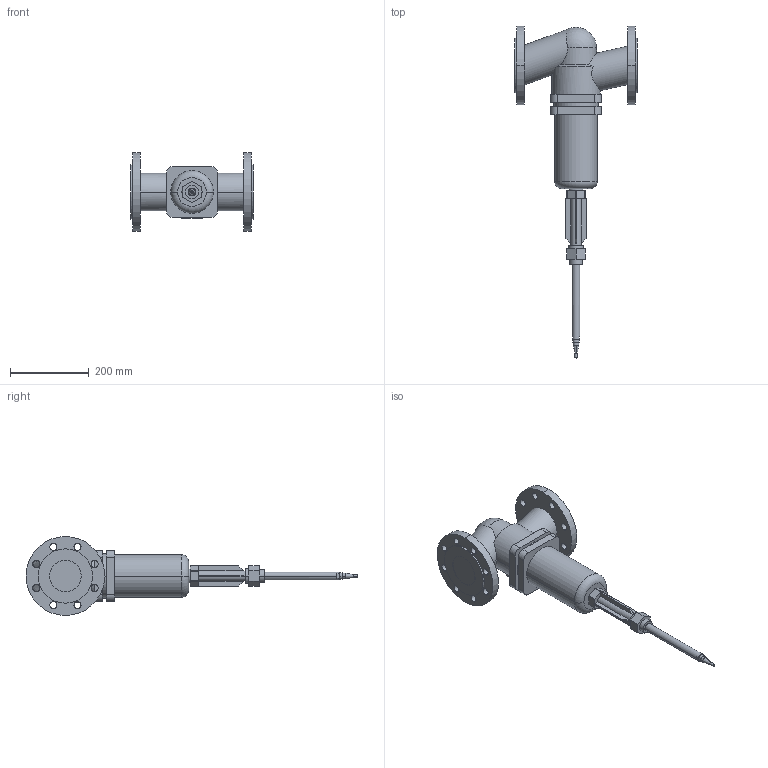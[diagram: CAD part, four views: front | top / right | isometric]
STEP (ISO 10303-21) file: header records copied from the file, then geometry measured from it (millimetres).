
FILE_DESCRIPTION(('CoCreate Modeling STEP Export'),'2;1');
FILE_NAME('c000004779.stp','2011-09-22T10:49:15',(''),(''),'CoCreate Modeling STEP processor for AP214 (Solid Model)','CoCreate Modeling 17.0 01-Apr-2010 (C) Parametric Technology GmbH','');
FILE_SCHEMA(('AUTOMOTIVE_DESIGN { 1 0 10303 214 1 1 1 1 }'));
Length unit declared in the file: millimetre
Products named in the file (1): 1
Bounding box: 310 x 842.06 x 200 mm (x, y, z)
Volume: 6810950.4 mm3; surface area: 417211.6 mm2
Topology: 1 solids, 1 shells, 186 faces, 472 edges, 307 vertices
Faces by surface type: cylinder 92, plane 80, cone 10, torus 2, sphere 2
Entity records: 7049 total; most frequent: CARTESIAN_POINT 1317, ORIENTED_EDGE 940, DIRECTION 791, EDGE_CURVE 470, VERTEX_POINT 307, AXIS2_PLACEMENT_3D 277, EDGE_LOOP 239, VECTOR 237
